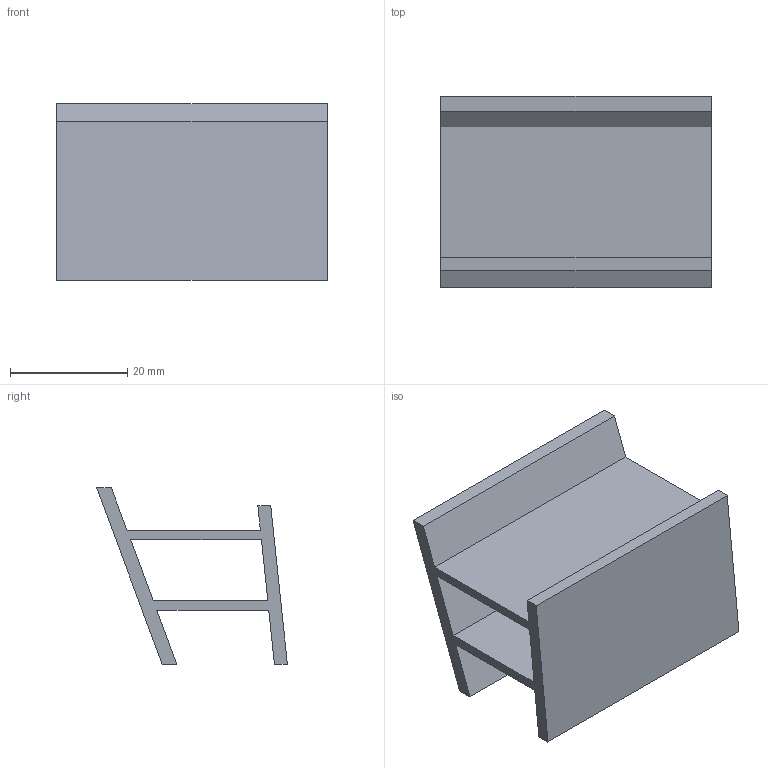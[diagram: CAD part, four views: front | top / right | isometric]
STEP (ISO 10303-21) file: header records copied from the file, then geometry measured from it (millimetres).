
FILE_DESCRIPTION(('Open CASCADE Model'),'2;1');
FILE_NAME('Open CASCADE Shape Model','2026-10-16T03:24:50',('Author'),( 'Open CASCADE'),'Open CASCADE STEP processor 7.9','Open CASCADE 7.9' ,'Unknown');
FILE_SCHEMA(('AUTOMOTIVE_DESIGN { 1 0 10303 214 1 1 1 1 }'));
Length unit declared in the file: millimetre
Products named in the file (1): Open CASCADE STEP translator 7.9 22
Bounding box: 46 x 32.48 x 30 mm (x, y, z)
Volume: 9256.6 mm3; surface area: 9815.6 mm2
Topology: 1 solids, 1 shells, 18 faces, 48 edges, 32 vertices
Faces by surface type: plane 18
Entity records: 1190 total; most frequent: CARTESIAN_POINT 195, DIRECTION 182, LINE 144, VECTOR 144, ORIENTED_EDGE 96, PCURVE 96, DEFINITIONAL_REPRESENTATION 96, EDGE_CURVE 48
